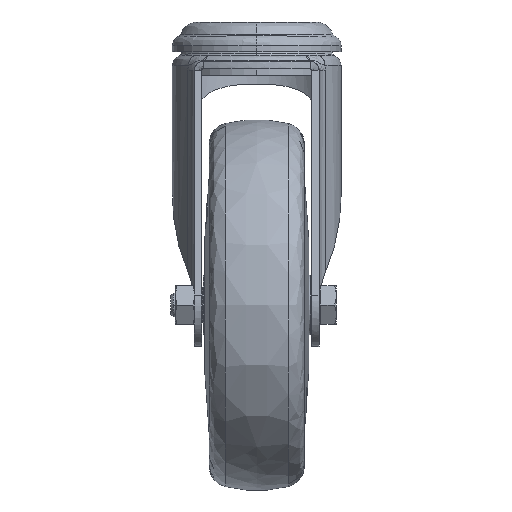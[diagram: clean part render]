
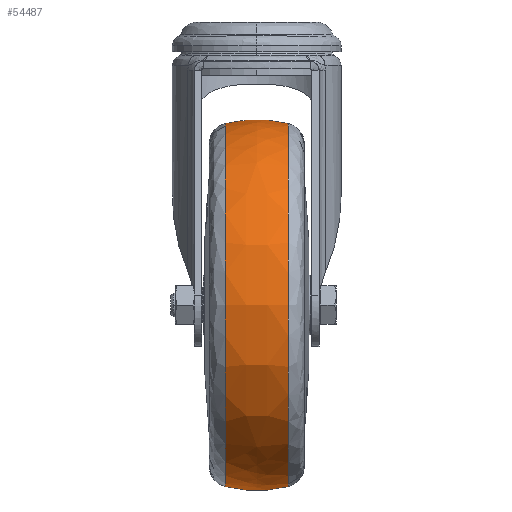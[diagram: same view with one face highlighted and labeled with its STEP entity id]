
A CAD part, top view. The second image highlights one B-rep face of the part: STEP entity #54487.
In plain terms, the highlighted free-form (B-spline) face has degree [3, 3] with [4, 4] control points.
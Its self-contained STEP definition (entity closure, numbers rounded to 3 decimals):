
#1262 = EDGE_CURVE ( 'NONE', #32909, #52363, #31594, .T. ) ;
#1337 = EDGE_CURVE ( 'NONE', #45335, #20915, #33001, .T. ) ;
#2058 = CARTESIAN_POINT ( 'NONE',  ( -3.621, -32.565, 165.87 ) ) ;
#6643 = CARTESIAN_POINT ( 'NONE',  ( 3.621, -158.435, 40. ) ) ;
#7314 = CARTESIAN_POINT ( 'NONE',  ( 10.658, -34.28, 40. ) ) ;
#7594 = AXIS2_PLACEMENT_3D ( 'NONE', #40924, #14028, #45366 ) ;
#8895 = CIRCLE ( 'NONE', #13703, 45. ) ;
#11197 = CARTESIAN_POINT ( 'NONE',  ( 3.621, -32.565, 165.87 ) ) ;
#12191 = DIRECTION ( 'NONE',  ( 0., 0., -1. ) ) ;
#13197 = DIRECTION ( 'NONE',  ( -1., 0., 0. ) ) ;
#13703 = AXIS2_PLACEMENT_3D ( 'NONE', #39135, #12191, #43597 ) ;
#14028 = DIRECTION ( 'NONE',  ( 0., 0., 1. ) ) ;
#15734 = CARTESIAN_POINT ( 'NONE',  ( 10.658, -156.72, 40. ) ) ;
#15887 = EDGE_CURVE ( 'NONE', #45335, #52363, #8895, .T. ) ;
#20068 = CARTESIAN_POINT ( 'NONE',  ( -10.658, -156.72, 40. ) ) ;
#20279 = CARTESIAN_POINT ( 'NONE',  ( 10.658, -34.28, 162.439 ) ) ;
#20915 = VERTEX_POINT ( 'NONE', #52004 ) ;
#22472 = DIRECTION ( 'NONE',  ( 0., -1., 0. ) ) ;
#24602 = CARTESIAN_POINT ( 'NONE',  ( -10.658, -34.28, 40. ) ) ;
#25085 = DIRECTION ( 'NONE',  ( 0., -1., 0. ) ) ;
#27799 = AXIS2_PLACEMENT_3D ( 'NONE', #48662, #13197, #25085 ) ;
#28250 = DIRECTION ( 'NONE',  ( 1., 0., 0. ) ) ;
#29154 = CARTESIAN_POINT ( 'NONE',  ( -3.621, -158.435, 165.87 ) ) ;
#30366 = ORIENTED_EDGE ( 'NONE', *, *, #1337, .T. ) ;
#30638 = ORIENTED_EDGE ( 'NONE', *, *, #52977, .T. ) ;
#31594 = CIRCLE ( 'NONE', #27799, 61.22 ) ;
#32909 = VERTEX_POINT ( 'NONE', #52720 ) ;
#33001 = CIRCLE ( 'NONE', #42787, 61.22 ) ;
#33653 = CARTESIAN_POINT ( 'NONE',  ( -3.621, -32.565, 40. ) ) ;
#36366 = CARTESIAN_POINT ( 'NONE',  ( -10.658, -95.5, 40. ) ) ;
#38148 = CARTESIAN_POINT ( 'NONE',  ( 3.621, -158.435, 165.87 ) ) ;
#39135 = CARTESIAN_POINT ( 'NONE',  ( 0., -78., 40. ) ) ;
#40736 = CARTESIAN_POINT ( 'NONE',  ( -10.658, -34.28, 40. ) ) ;
#40924 = CARTESIAN_POINT ( 'NONE',  ( 0., -113., 40. ) ) ;
#42184 = ORIENTED_EDGE ( 'NONE', *, *, #1262, .T. ) ;
#42607 = CARTESIAN_POINT ( 'NONE',  ( 3.621, -32.565, 40. ) ) ;
#42787 = AXIS2_PLACEMENT_3D ( 'NONE', #36366, #28250, #22472 ) ;
#43597 = DIRECTION ( 'NONE',  ( 0., 1., 0. ) ) ;
#43981 = ORIENTED_EDGE ( 'NONE', *, *, #15887, .F. ) ;
#44312 = CIRCLE ( 'NONE', #7594, 45. ) ;
#45335 = VERTEX_POINT ( 'NONE', #40736 ) ;
#45366 = DIRECTION ( 'NONE',  ( 0., -1., 0. ) ) ;
#46678 = CARTESIAN_POINT ( 'NONE',  ( -10.658, -156.72, 162.439 ) ) ;
#47061 = CARTESIAN_POINT ( 'NONE',  ( 10.658, -156.72, 162.439 ) ) ;
#48662 = CARTESIAN_POINT ( 'NONE',  ( 10.658, -95.5, 40. ) ) ;
#51352 = CARTESIAN_POINT ( 'NONE',  ( -10.658, -34.28, 162.439 ) ) ;
#51541 = CARTESIAN_POINT ( 'NONE',  ( 10.658, -34.28, 40. ) ) ;
#52004 = CARTESIAN_POINT ( 'NONE',  ( -10.658, -156.72, 40. ) ) ;
#52363 = VERTEX_POINT ( 'NONE', #7314 ) ;
#52447 =( BOUNDED_SURFACE ( )  B_SPLINE_SURFACE ( 3, 3, ( 
 ( #20068, #46678, #51352, #24602 ),
 ( #55840, #29154, #2058, #33653 ),
 ( #6643, #38148, #11197, #42607 ),
 ( #15734, #47061, #20279, #51541 ) ),
 .UNSPECIFIED., .F., .F., .F. ) 
 B_SPLINE_SURFACE_WITH_KNOTS ( ( 4, 4 ),
 ( 4, 4 ),
 ( 0., 1. ),
 ( 0., 1. ),
 .UNSPECIFIED. ) 
 GEOMETRIC_REPRESENTATION_ITEM ( )  RATIONAL_B_SPLINE_SURFACE ( (
 ( 1., 0.333, 0.333, 1.),
 ( 0.981, 0.327, 0.327, 0.981),
 ( 0.981, 0.327, 0.327, 0.981),
 ( 1., 0.333, 0.333, 1.) ) ) 
 REPRESENTATION_ITEM ( '' )  SURFACE ( )  );
#52720 = CARTESIAN_POINT ( 'NONE',  ( 10.658, -156.72, 40. ) ) ;
#52977 = EDGE_CURVE ( 'NONE', #20915, #32909, #44312, .T. ) ;
#54487 = ADVANCED_FACE ( 'NONE', ( #56515 ), #52447, .T. ) ;
#55840 = CARTESIAN_POINT ( 'NONE',  ( -3.621, -158.435, 40. ) ) ;
#56515 = FACE_OUTER_BOUND ( 'NONE', #56590, .T. ) ;
#56590 = EDGE_LOOP ( 'NONE', ( #43981, #30366, #30638, #42184 ) ) ;
